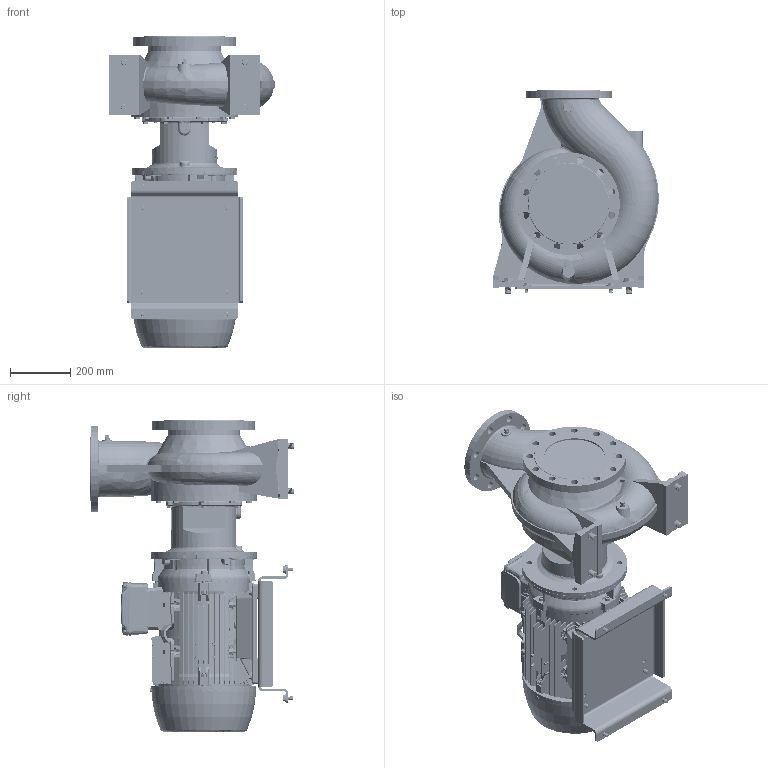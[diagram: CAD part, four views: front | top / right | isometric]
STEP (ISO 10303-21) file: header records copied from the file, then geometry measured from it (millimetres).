
FILE_DESCRIPTION (( 'STEP AP214' ), '1' );
FILE_NAME ('GSD4 150-250_18.5 & 22_(180ML)_W21.STEP', '2026-07-01T02:45:41', ( '' ), ( '' ), 'SwSTEP 2.0', 'SolidWorks 2024', '' );
FILE_SCHEMA (( 'AUTOMOTIVE_DESIGN' ));
Length unit declared in the file: millimetre
Products named in the file (12): Parametric bolt and washer_SFT-A305B; GSD4 150-250_18.5 & 22_(180ML)_W21; Parametric bolt_SFT-A305B; Parametric bolt and washer_SFT-A297B; 180M_L ALIE3_W21T_B35; CGS11-5264; 150-250-180M_L_ﾃﾞﾌｫﾙﾄ; Parametric bolt_SFT-A297B; Parametric Flat Washer_M20; Parametric bolt_SFT-A403B; Parametric Flat Washer_M12; Parametric bolt and washer_SFT-A403B
Assembly tree (21 placements, depth 3):
  GSD4 150-250_18.5 & 22_(180ML)_W21
    150-250-180M_L_ﾃﾞﾌｫﾙﾄ
    CGS11-5264
    Parametric bolt and washer_SFT-A403B  x4
      Parametric bolt_SFT-A403B
      Parametric Flat Washer_M20
    Parametric bolt and washer_SFT-A297B  x4
      Parametric bolt_SFT-A297B
      Parametric Flat Washer_M12
    Parametric bolt and washer_SFT-A305B  x4
      Parametric bolt_SFT-A305B
      Parametric Flat Washer_M12
    180M_L ALIE3_W21T_B35
Bounding box: 549.19 x 672 x 1029.8 mm (x, y, z)
Volume: 51113574.6 mm3; surface area: 4589367.3 mm2
Topology: 61 solids, 62 shells, 6668 faces, 17262 edges, 11174 vertices
Faces by surface type: plane 3907, cylinder 1375, cone 631, bspline 468, torus 271, sphere 16
Entity records: 251537 total; most frequent: CARTESIAN_POINT 108665, ORIENTED_EDGE 31410, DIRECTION 26568, EDGE_CURVE 15705, VERTEX_POINT 10169, LINE 9848, VECTOR 9848, AXIS2_PLACEMENT_3D 8360
